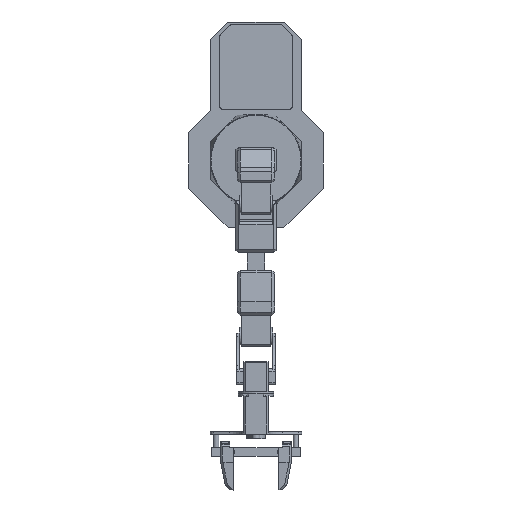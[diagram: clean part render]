
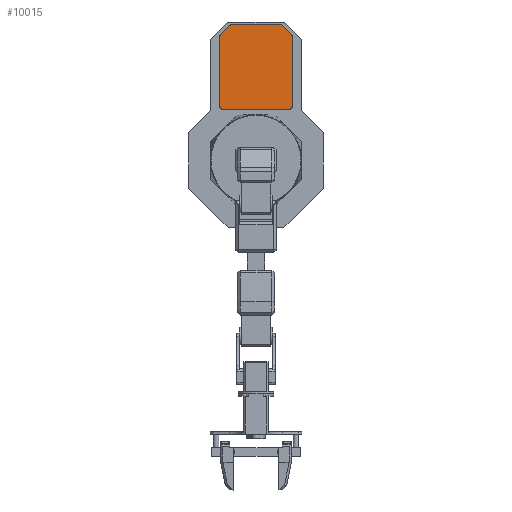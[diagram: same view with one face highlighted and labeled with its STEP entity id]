
A CAD part, top view. The second image highlights one B-rep face of the part: STEP entity #10015.
In plain terms, the highlighted planar face has unit normal (0, 0, 1).
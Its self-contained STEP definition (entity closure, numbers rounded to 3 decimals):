
#300=PLANE('',#10716);
#711=FACE_OUTER_BOUND('',#1308,.T.);
#1308=EDGE_LOOP('',(#6905,#6906,#6907,#6908,#6909,#6910,#6911,#6912,#6913,
#6914,#6915,#6916));
#1932=LINE('',#14583,#3007);
#1936=LINE('',#14595,#3011);
#1940=LINE('',#14607,#3015);
#1944=LINE('',#14619,#3019);
#1948=LINE('',#14631,#3023);
#1951=LINE('',#14640,#3026);
#3007=VECTOR('',#11640,10.);
#3011=VECTOR('',#11652,10.);
#3015=VECTOR('',#11664,10.);
#3019=VECTOR('',#11676,10.);
#3023=VECTOR('',#11688,10.);
#3026=VECTOR('',#11699,10.);
#4079=CIRCLE('',#10694,3.);
#4081=CIRCLE('',#10698,3.);
#4083=CIRCLE('',#10702,3.);
#4085=CIRCLE('',#10706,3.);
#4087=CIRCLE('',#10710,2.5);
#4089=CIRCLE('',#10714,2.5);
#4392=VERTEX_POINT('',#14573);
#4393=VERTEX_POINT('',#14575);
#4395=VERTEX_POINT('',#14581);
#4397=VERTEX_POINT('',#14587);
#4399=VERTEX_POINT('',#14593);
#4401=VERTEX_POINT('',#14599);
#4403=VERTEX_POINT('',#14605);
#4405=VERTEX_POINT('',#14611);
#4407=VERTEX_POINT('',#14617);
#4409=VERTEX_POINT('',#14623);
#4411=VERTEX_POINT('',#14629);
#4413=VERTEX_POINT('',#14635);
#5351=EDGE_CURVE('',#4393,#4392,#4079,.T.);
#5355=EDGE_CURVE('',#4392,#4395,#1932,.T.);
#5358=EDGE_CURVE('',#4395,#4397,#4081,.T.);
#5361=EDGE_CURVE('',#4397,#4399,#1936,.T.);
#5364=EDGE_CURVE('',#4399,#4401,#4083,.T.);
#5367=EDGE_CURVE('',#4401,#4403,#1940,.T.);
#5370=EDGE_CURVE('',#4403,#4405,#4085,.T.);
#5373=EDGE_CURVE('',#4405,#4407,#1944,.T.);
#5376=EDGE_CURVE('',#4407,#4409,#4087,.T.);
#5379=EDGE_CURVE('',#4409,#4411,#1948,.T.);
#5382=EDGE_CURVE('',#4411,#4413,#4089,.T.);
#5384=EDGE_CURVE('',#4413,#4393,#1951,.T.);
#6905=ORIENTED_EDGE('',*,*,#5364,.T.);
#6906=ORIENTED_EDGE('',*,*,#5367,.T.);
#6907=ORIENTED_EDGE('',*,*,#5370,.T.);
#6908=ORIENTED_EDGE('',*,*,#5373,.T.);
#6909=ORIENTED_EDGE('',*,*,#5376,.T.);
#6910=ORIENTED_EDGE('',*,*,#5379,.T.);
#6911=ORIENTED_EDGE('',*,*,#5382,.T.);
#6912=ORIENTED_EDGE('',*,*,#5384,.T.);
#6913=ORIENTED_EDGE('',*,*,#5351,.T.);
#6914=ORIENTED_EDGE('',*,*,#5355,.T.);
#6915=ORIENTED_EDGE('',*,*,#5358,.T.);
#6916=ORIENTED_EDGE('',*,*,#5361,.T.);
#10015=ADVANCED_FACE('',(#711),#300,.T.);
#10694=AXIS2_PLACEMENT_3D('',#14576,#11633,#11634);
#10698=AXIS2_PLACEMENT_3D('',#14589,#11646,#11647);
#10702=AXIS2_PLACEMENT_3D('',#14601,#11658,#11659);
#10706=AXIS2_PLACEMENT_3D('',#14613,#11670,#11671);
#10710=AXIS2_PLACEMENT_3D('',#14625,#11682,#11683);
#10714=AXIS2_PLACEMENT_3D('',#14637,#11694,#11695);
#10716=AXIS2_PLACEMENT_3D('',#14641,#11700,#11701);
#11633=DIRECTION('center_axis',(0.,0.,
1.));
#11634=DIRECTION('ref_axis',(-0.707,0.707,0.));
#11640=DIRECTION('',(0.,-1.,0.));
#11646=DIRECTION('center_axis',(0.,0.,
1.));
#11647=DIRECTION('ref_axis',(-1.,0.,0.));
#11652=DIRECTION('',(1.,0.,0.));
#11658=DIRECTION('center_axis',(0.,0.,
1.));
#11659=DIRECTION('ref_axis',(0.,-1.,0.));
#11664=DIRECTION('',(0.,1.,0.));
#11670=DIRECTION('center_axis',(0.,0.,
1.));
#11671=DIRECTION('ref_axis',(1.,0.,0.));
#11676=DIRECTION('',(-0.707,0.707,0.));
#11682=DIRECTION('center_axis',(0.,0.,
1.));
#11683=DIRECTION('ref_axis',(0.707,0.707,0.));
#11688=DIRECTION('',(-1.,-0.001,0.));
#11694=DIRECTION('center_axis',(0.,0.,
1.));
#11695=DIRECTION('ref_axis',(-0.001,1.,0.));
#11699=DIRECTION('',(-0.707,-0.707,0.));
#11700=DIRECTION('center_axis',(0.,0.,
1.));
#11701=DIRECTION('ref_axis',(-1.,0.,0.));
#14573=CARTESIAN_POINT('',(-41.,140.757,37.));
#14575=CARTESIAN_POINT('',(-40.121,142.879,37.));
#14576=CARTESIAN_POINT('Origin',(-38.,140.757,37.));
#14581=CARTESIAN_POINT('',(-41.,61.,37.));
#14583=CARTESIAN_POINT('',(-41.,140.757,37.));
#14587=CARTESIAN_POINT('',(-38.,58.,37.));
#14589=CARTESIAN_POINT('Origin',(-38.,61.,37.));
#14593=CARTESIAN_POINT('',(38.,58.,37.));
#14595=CARTESIAN_POINT('',(-38.,58.,37.));
#14599=CARTESIAN_POINT('',(41.,61.,37.));
#14601=CARTESIAN_POINT('Origin',(38.,61.,37.));
#14605=CARTESIAN_POINT('',(41.,140.757,37.));
#14607=CARTESIAN_POINT('',(41.,61.,37.));
#14611=CARTESIAN_POINT('',(40.121,142.879,37.));
#14613=CARTESIAN_POINT('Origin',(38.,140.757,37.));
#14617=CARTESIAN_POINT('',(29.673,153.327,37.));
#14619=CARTESIAN_POINT('',(40.121,142.879,37.));
#14623=CARTESIAN_POINT('',(27.904,154.059,37.));
#14625=CARTESIAN_POINT('Origin',(27.906,151.559,37.));
#14629=CARTESIAN_POINT('',(-27.943,154.023,37.));
#14631=CARTESIAN_POINT('',(27.904,154.059,37.));
#14635=CARTESIAN_POINT('',(-29.71,153.29,37.));
#14637=CARTESIAN_POINT('Origin',(-27.942,151.523,37.));
#14640=CARTESIAN_POINT('',(-29.71,153.29,37.));
#14641=CARTESIAN_POINT('Origin',(0.,106.029,
37.));
